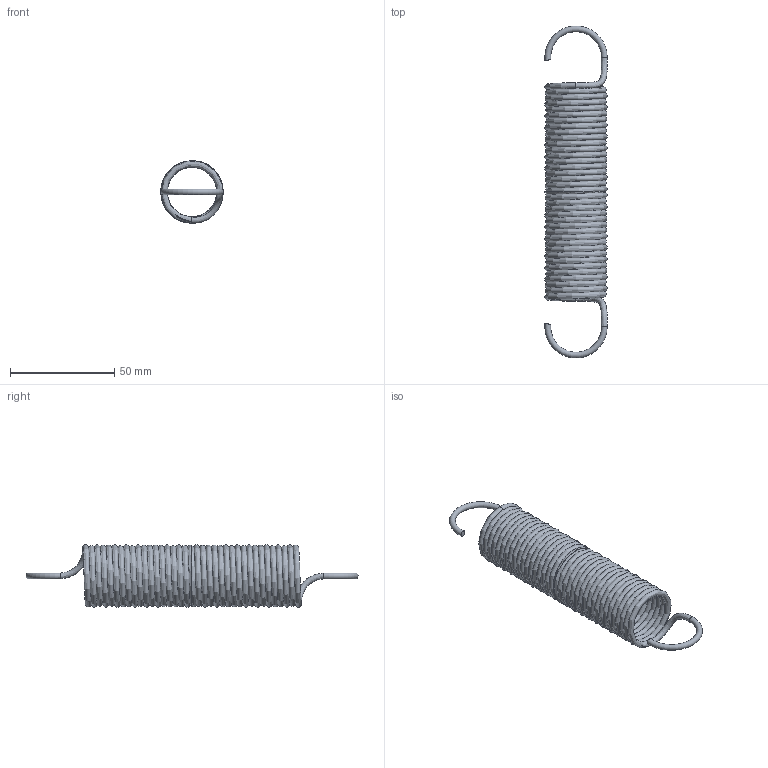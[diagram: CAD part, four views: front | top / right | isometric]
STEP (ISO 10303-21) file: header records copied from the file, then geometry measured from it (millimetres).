
FILE_DESCRIPTION(/* description */ ('167 | 0,65 | 0'),/* implementation_level */ '2;1');
FILE_NAME(/* name */ 'T22060.step',/* time_stamp */ '2026-10-05T10:22:07+02:00',/* author */ ('impex-ready.pl'),/* organization */ ('T22060'),/* preprocessor_version */ 'ST-DEVELOPER v20.1',/* originating_system */ 'Autodesk Inventor 2026',/* authorisation */ 'stal nierdzewna');
FILE_SCHEMA (('AUTOMOTIVE_DESIGN { 1 0 10303 214 3 1 1 }'));
Length unit declared in the file: millimetre
Products named in the file (1): T22060
Bounding box: 30 x 159.58 x 30 mm (x, y, z)
Volume: 20140.7 mm3; surface area: 28784.8 mm2
Topology: 1 solids, 1 shells, 10 faces, 34 edges, 22 vertices
Faces by surface type: plane 4, bspline 4, torus 2
Entity records: 6216 total; most frequent: CARTESIAN_POINT 5904, ORIENTED_EDGE 68, DIRECTION 42, EDGE_CURVE 34, VERTEX_POINT 22, AXIS2_PLACEMENT_3D 21, B_SPLINE_CURVE_WITH_KNOTS 20, CIRCLE 14
